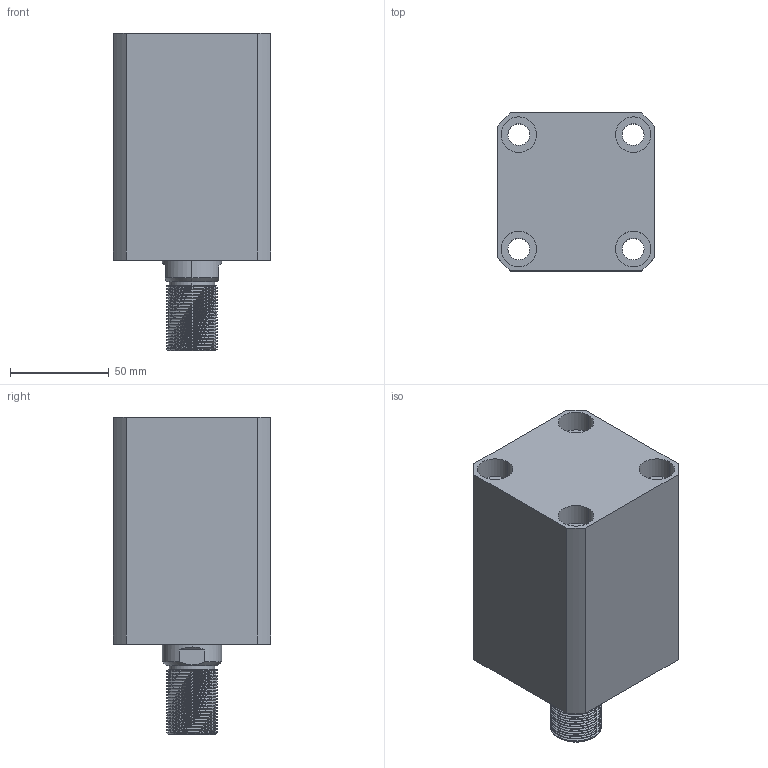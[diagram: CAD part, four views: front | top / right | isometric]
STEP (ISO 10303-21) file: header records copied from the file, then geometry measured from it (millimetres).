
FILE_DESCRIPTION (( 'STEP AP203' ), '1' );
FILE_NAME ('CHTB-SDMA50-55W.STEP', '2018-05-19T02:20:23', ( '' ), ( '' ), 'SwSTEP 2.0', 'SolidWorks 2015', '' );
FILE_SCHEMA (( 'CONFIG_CONTROL_DESIGN' ));
Length unit declared in the file: millimetre
Products named in the file (5): CHTM-SDMA50QG; CHTB-SDMA50-55W; 掛极SDMA50-55W; M6; 活塞杆SDMA50-55W
Assembly tree (5 placements, depth 2):
  CHTB-SDMA50-55W
    掛极SDMA50-55W
    活塞杆SDMA50-55W
    M6  x2
    CHTM-SDMA50QG
Bounding box: 80 x 80 x 161 mm (x, y, z)
Volume: 618309.4 mm3; surface area: 120958.8 mm2
Topology: 5 solids, 5 shells, 312 faces, 831 edges, 553 vertices
Faces by surface type: cylinder 179, plane 60, cone 29, bspline 28, torus 16
Entity records: 17949 total; most frequent: CARTESIAN_POINT 11067, ORIENTED_EDGE 1468, DIRECTION 1169, EDGE_CURVE 734, VERTEX_POINT 492, AXIS2_PLACEMENT_3D 472, EDGE_LOOP 320, ADVANCED_FACE 277
